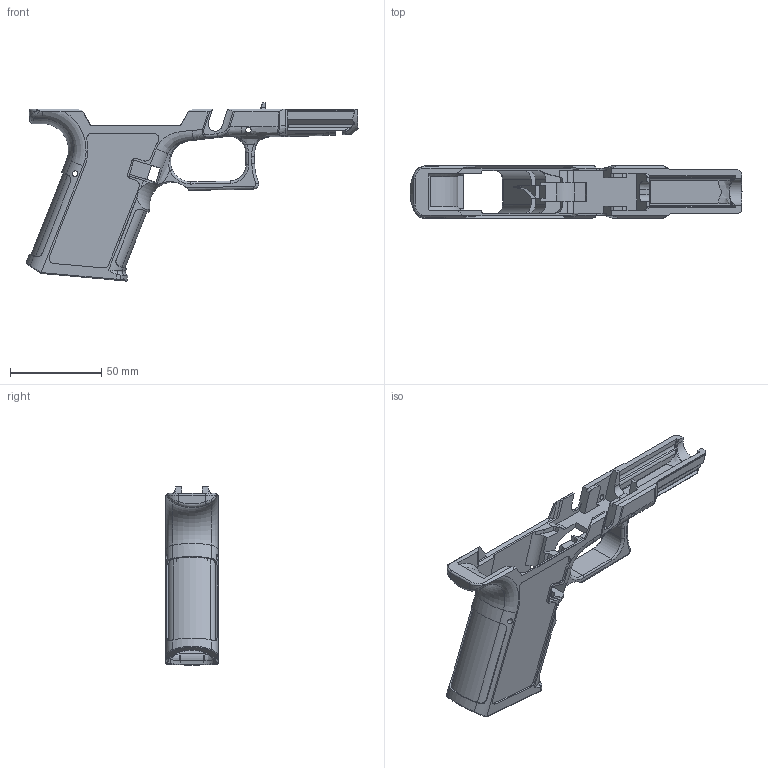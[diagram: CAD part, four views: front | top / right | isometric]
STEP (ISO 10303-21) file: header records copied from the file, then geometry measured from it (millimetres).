
FILE_DESCRIPTION(/* description */ (''),/* implementation_level */ '2;1');
FILE_NAME(/* name */ '120G Compact - MOD1 Inlay.step',/* time_stamp */ '2024-06-03T21:03:43-05:00',/* author */ (''),/* organization */ (''),/* preprocessor_version */ 'ST-DEVELOPER v20',/* originating_system */ 'Autodesk Translation Framework v13.14.0.145',/* authorisation */ '');
FILE_SCHEMA (('AUTOMOTIVE_DESIGN { 1 0 10303 214 3 1 1 }'));
Products named in the file (2): 120G Compact - MOD1 Inlay; X9-C MOD1 (G19)
Assembly tree (2 placements, depth 2):
  120G Compact - MOD1 Inlay
    X9-C MOD1 (G19)  x2
Bounding box: 181.79 x 28.8 x 97.54 mm (x, y, z)
Volume: 122562.2 mm3; surface area: 78827.7 mm2
Topology: 2 solids, 2 shells, 1222 faces, 3546 edges, 2284 vertices
Faces by surface type: bspline 486, plane 376, cylinder 280, torus 52, cone 22, sphere 6
Full cylindrical faces by diameter (mm): 1.321 x2, 3 x8
Entity records: 42172 total; most frequent: CARTESIAN_POINT 27562, ORIENTED_EDGE 3518, DIRECTION 2449, EDGE_CURVE 1759, VERTEX_POINT 1142, AXIS2_PLACEMENT_3D 881, LINE 687, VECTOR 687
